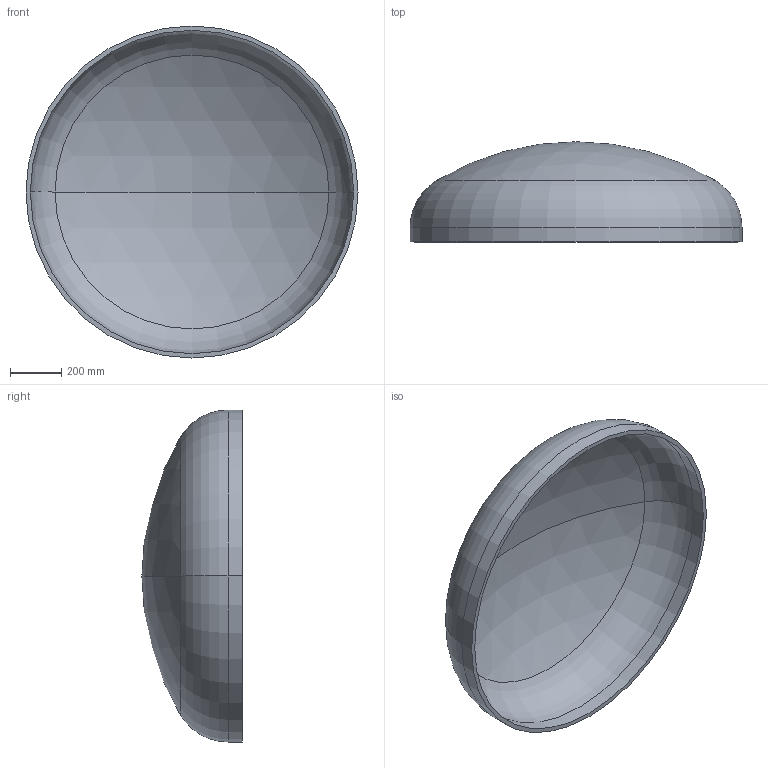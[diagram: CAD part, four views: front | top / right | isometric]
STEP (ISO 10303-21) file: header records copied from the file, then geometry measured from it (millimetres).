
FILE_DESCRIPTION (( 'STEP AP203' ), '1' );
FILE_NAME ('DIN 28013 Korbbogenform_-_Boden DIN 28013 - 1300 x 55 - I - s=17.step', '2016-07-01T09:44:33', ( '' ), ( '' ), 'SwSTEP 2.0', 'SolidWorks 2013', '' );
FILE_SCHEMA (( 'CONFIG_CONTROL_DESIGN' ));
Length unit declared in the file: millimetre
Products named in the file (1): DIN 28013 Korbbogenform_-_Boden DIN 28013 - 1300 x 55 - I - s=17
Bounding box: 1300 x 392.2 x 1300 mm (x, y, z)
Volume: 34478611 mm3; surface area: 4125432.3 mm2
Topology: 1 solids, 1 shells, 13 faces, 24 edges, 14 vertices
Faces by surface type: torus 4, cylinder 4, sphere 4, plane 1
Entity records: 407 total; most frequent: DIRECTION 72, CARTESIAN_POINT 52, ORIENTED_EDGE 48, AXIS2_PLACEMENT_3D 34, EDGE_CURVE 24, CIRCLE 20, VERTEX_POINT 14, EDGE_LOOP 14
